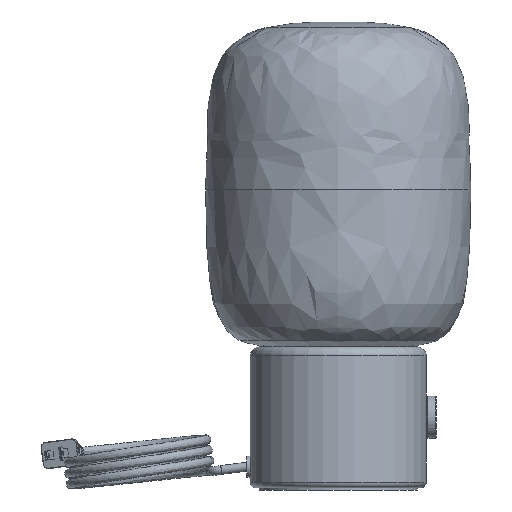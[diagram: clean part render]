
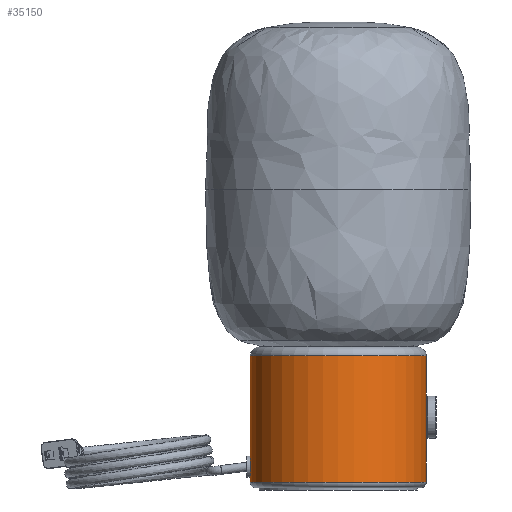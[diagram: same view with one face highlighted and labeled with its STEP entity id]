
A CAD part, left-side view. The second image highlights one B-rep face of the part: STEP entity #35150.
In plain terms, the highlighted cylindrical face has radius 63.5 mm (diameter 127 mm), a full revolution.
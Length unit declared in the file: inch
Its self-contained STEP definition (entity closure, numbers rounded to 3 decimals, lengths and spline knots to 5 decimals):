
#172=FACE_BOUND('',#6121,.T.);
#173=FACE_BOUND('',#6122,.T.);
#497=B_SPLINE_CURVE_WITH_KNOTS('',3,(#51264,#51265,#51266,#51267,#51268,
#51269,#51270,#51271,#51272,#51273,#51274,#51275,#51276,#51277,#51278,#51279,
#51280,#51281,#51282,#51283,#51284,#51285,#51286,#51287,#51288,#51289,#51290,
#51291,#51292,#51293,#51294,#51295,#51296,#51297),.UNSPECIFIED.,.T.,.F.,
(4,2,2,2,2,2,2,2,2,2,2,2,2,2,2,2,4),(0.,0.19144,0.38288,
0.57429,0.7657,0.95719,1.14868,
1.34013,1.53157,1.72302,1.91447,2.10596,
2.29745,2.48886,2.68027,2.87171,3.06315),
 .UNSPECIFIED.);
#498=B_SPLINE_CURVE_WITH_KNOTS('',3,(#51300,#51301,#51302,#51303,#51304,
#51305,#51306,#51307,#51308,#51309,#51310,#51311,#51312,#51313,#51314,#51315,
#51316,#51317),.UNSPECIFIED.,.F.,.F.,(4,2,2,2,2,2,2,2,4),(0.,0.14355,
0.28711,0.43066,0.57422,0.71777,
0.86133,1.00488,1.14844),.UNSPECIFIED.);
#499=B_SPLINE_CURVE_WITH_KNOTS('',3,(#51318,#51319,#51320,#51321,#51322,
#51323,#51324,#51325,#51326,#51327,#51328,#51329,#51330,#51331,#51332,#51333,
#51334,#51335),.UNSPECIFIED.,.F.,.F.,(4,2,2,2,2,2,2,2,4),(1.14844,
1.29199,1.43555,1.5791,1.72266,1.86621,
2.00976,2.15332,2.29687),.UNSPECIFIED.);
#4068=FACE_OUTER_BOUND('',#6120,.T.);
#6120=EDGE_LOOP('',(#24691,#24692,#24693,#24694));
#6121=EDGE_LOOP('',(#24695));
#6122=EDGE_LOOP('',(#24696,#24697));
#8312=LINE('',#51262,#11614);
#11614=VECTOR('',#39458,2.5);
#14878=CIRCLE('',#37475,2.5);
#14881=CIRCLE('',#37479,2.5);
#15374=VERTEX_POINT('',#51254);
#15376=VERTEX_POINT('',#51260);
#15377=VERTEX_POINT('',#51263);
#15378=VERTEX_POINT('',#51298);
#15379=VERTEX_POINT('',#51299);
#19016=EDGE_CURVE('',#15374,#15374,#14878,.T.);
#19019=EDGE_CURVE('',#15376,#15376,#14881,.T.);
#19020=EDGE_CURVE('',#15376,#15374,#8312,.T.);
#19021=EDGE_CURVE('',#15377,#15377,#497,.F.);
#19022=EDGE_CURVE('',#15378,#15379,#498,.T.);
#19023=EDGE_CURVE('',#15379,#15378,#499,.T.);
#24691=ORIENTED_EDGE('',*,*,#19019,.F.);
#24692=ORIENTED_EDGE('',*,*,#19020,.T.);
#24693=ORIENTED_EDGE('',*,*,#19016,.F.);
#24694=ORIENTED_EDGE('',*,*,#19020,.F.);
#24695=ORIENTED_EDGE('',*,*,#19021,.T.);
#24696=ORIENTED_EDGE('',*,*,#19022,.T.);
#24697=ORIENTED_EDGE('',*,*,#19023,.T.);
#34947=CYLINDRICAL_SURFACE('',#37478,2.5);
#35150=ADVANCED_FACE('',(#4068,#172,#173),#34947,.T.);
#37475=AXIS2_PLACEMENT_3D('',#51255,#39448,#39449);
#37478=AXIS2_PLACEMENT_3D('',#51259,#39454,#39455);
#37479=AXIS2_PLACEMENT_3D('',#51261,#39456,#39457);
#39448=DIRECTION('center_axis',(0.,0.,-1.));
#39449=DIRECTION('ref_axis',(1.,0.,0.));
#39454=DIRECTION('center_axis',(0.,0.,1.));
#39455=DIRECTION('ref_axis',(1.,0.,0.));
#39456=DIRECTION('center_axis',(0.,0.,1.));
#39457=DIRECTION('ref_axis',(1.,0.,0.));
#39458=DIRECTION('',(0.,0.,-1.));
#51254=CARTESIAN_POINT('',(-2.5,0.,0.16));
#51255=CARTESIAN_POINT('Origin',(0.,0.,0.16));
#51259=CARTESIAN_POINT('Origin',(0.,0.,0.));
#51260=CARTESIAN_POINT('',(-2.5,0.,3.75));
#51261=CARTESIAN_POINT('Origin',(0.,0.,3.75));
#51262=CARTESIAN_POINT('',(-2.5,0.,0.));
#51263=CARTESIAN_POINT('',(-0.18297,2.4933,0.60024));
#51264=CARTESIAN_POINT('Ctrl Pts',(-0.18297,2.4933,
0.60024));
#51265=CARTESIAN_POINT('Ctrl Pts',(-0.18297,2.4933,
0.62537));
#51266=CARTESIAN_POINT('Ctrl Pts',(-0.17795,2.49368,
0.65216));
#51267=CARTESIAN_POINT('Ctrl Pts',(-0.15753,2.49505,
0.70143));
#51268=CARTESIAN_POINT('Ctrl Pts',(-0.14214,2.49602,0.72392));
#51269=CARTESIAN_POINT('Ctrl Pts',(-0.10663,2.49779,0.75942));
#51270=CARTESIAN_POINT('Ctrl Pts',(-0.08415,2.49871,
0.77481));
#51271=CARTESIAN_POINT('Ctrl Pts',(-0.03488,2.49988,
0.79522));
#51272=CARTESIAN_POINT('Ctrl Pts',(-0.00809,2.50011,
0.80024));
#51273=CARTESIAN_POINT('Ctrl Pts',(0.04216,2.49977,
0.80024));
#51274=CARTESIAN_POINT('Ctrl Pts',(0.06896,2.49917,
0.79522));
#51275=CARTESIAN_POINT('Ctrl Pts',(0.11823,2.49732,0.7748));
#51276=CARTESIAN_POINT('Ctrl Pts',(0.14071,2.4961,0.75941));
#51277=CARTESIAN_POINT('Ctrl Pts',(0.17621,2.49385,0.72391));
#51278=CARTESIAN_POINT('Ctrl Pts',(0.1916,2.49267,0.70143));
#51279=CARTESIAN_POINT('Ctrl Pts',(0.21201,2.49102,0.65216));
#51280=CARTESIAN_POINT('Ctrl Pts',(0.21703,2.49056,0.62537));
#51281=CARTESIAN_POINT('Ctrl Pts',(0.21703,2.49056,0.57512));
#51282=CARTESIAN_POINT('Ctrl Pts',(0.21201,2.49102,0.54833));
#51283=CARTESIAN_POINT('Ctrl Pts',(0.1916,2.49267,0.49906));
#51284=CARTESIAN_POINT('Ctrl Pts',(0.17621,2.49385,0.47658));
#51285=CARTESIAN_POINT('Ctrl Pts',(0.14071,2.4961,0.44108));
#51286=CARTESIAN_POINT('Ctrl Pts',(0.11823,2.49732,0.42568));
#51287=CARTESIAN_POINT('Ctrl Pts',(0.06896,2.49917,
0.40527));
#51288=CARTESIAN_POINT('Ctrl Pts',(0.04216,2.49977,
0.40024));
#51289=CARTESIAN_POINT('Ctrl Pts',(-0.00809,2.50011,
0.40024));
#51290=CARTESIAN_POINT('Ctrl Pts',(-0.03488,2.49988,
0.40526));
#51291=CARTESIAN_POINT('Ctrl Pts',(-0.08415,2.49871,
0.42567));
#51292=CARTESIAN_POINT('Ctrl Pts',(-0.10663,2.49779,0.44106));
#51293=CARTESIAN_POINT('Ctrl Pts',(-0.14214,2.49602,0.47657));
#51294=CARTESIAN_POINT('Ctrl Pts',(-0.15753,2.49505,
0.49905));
#51295=CARTESIAN_POINT('Ctrl Pts',(-0.17795,2.49368,
0.54833));
#51296=CARTESIAN_POINT('Ctrl Pts',(-0.18297,2.4933,
0.57512));
#51297=CARTESIAN_POINT('Ctrl Pts',(-0.18297,2.4933,
0.60024));
#51298=CARTESIAN_POINT('',(0.15,-2.4955,2.));
#51299=CARTESIAN_POINT('',(-0.15,-2.4955,2.));
#51300=CARTESIAN_POINT('Ctrl Pts',(0.15,-2.4955,2.));
#51301=CARTESIAN_POINT('Ctrl Pts',(0.15,-2.4955,1.98116));
#51302=CARTESIAN_POINT('Ctrl Pts',(0.14623,-2.49573,
1.96107));
#51303=CARTESIAN_POINT('Ctrl Pts',(0.13092,-2.49658,
1.92411));
#51304=CARTESIAN_POINT('Ctrl Pts',(0.11938,-2.49718,
1.90725));
#51305=CARTESIAN_POINT('Ctrl Pts',(0.09275,-2.49831,
1.88062));
#51306=CARTESIAN_POINT('Ctrl Pts',(0.07589,-2.49892,
1.86908));
#51307=CARTESIAN_POINT('Ctrl Pts',(0.03893,-2.49977,
1.85377));
#51308=CARTESIAN_POINT('Ctrl Pts',(0.01884,-2.5,
1.85));
#51309=CARTESIAN_POINT('Ctrl Pts',(-0.01884,-2.5,
1.85));
#51310=CARTESIAN_POINT('Ctrl Pts',(-0.03893,-2.49977,
1.85377));
#51311=CARTESIAN_POINT('Ctrl Pts',(-0.07589,-2.49892,
1.86908));
#51312=CARTESIAN_POINT('Ctrl Pts',(-0.09275,-2.49831,
1.88062));
#51313=CARTESIAN_POINT('Ctrl Pts',(-0.11938,-2.49718,
1.90725));
#51314=CARTESIAN_POINT('Ctrl Pts',(-0.13092,-2.49658,
1.92411));
#51315=CARTESIAN_POINT('Ctrl Pts',(-0.14623,-2.49573,
1.96107));
#51316=CARTESIAN_POINT('Ctrl Pts',(-0.15,-2.4955,1.98116));
#51317=CARTESIAN_POINT('Ctrl Pts',(-0.15,-2.4955,2.));
#51318=CARTESIAN_POINT('Ctrl Pts',(-0.15,-2.4955,2.));
#51319=CARTESIAN_POINT('Ctrl Pts',(-0.15,-2.4955,2.01884));
#51320=CARTESIAN_POINT('Ctrl Pts',(-0.14623,-2.49573,
2.03893));
#51321=CARTESIAN_POINT('Ctrl Pts',(-0.13092,-2.49658,
2.07589));
#51322=CARTESIAN_POINT('Ctrl Pts',(-0.11938,-2.49718,
2.09275));
#51323=CARTESIAN_POINT('Ctrl Pts',(-0.09275,-2.49831,
2.11938));
#51324=CARTESIAN_POINT('Ctrl Pts',(-0.07589,-2.49892,
2.13092));
#51325=CARTESIAN_POINT('Ctrl Pts',(-0.03893,-2.49977,
2.14623));
#51326=CARTESIAN_POINT('Ctrl Pts',(-0.01884,-2.5,
2.15));
#51327=CARTESIAN_POINT('Ctrl Pts',(0.01884,-2.5,
2.15));
#51328=CARTESIAN_POINT('Ctrl Pts',(0.03893,-2.49977,
2.14623));
#51329=CARTESIAN_POINT('Ctrl Pts',(0.07589,-2.49892,
2.13092));
#51330=CARTESIAN_POINT('Ctrl Pts',(0.09275,-2.49831,
2.11938));
#51331=CARTESIAN_POINT('Ctrl Pts',(0.11938,-2.49718,
2.09275));
#51332=CARTESIAN_POINT('Ctrl Pts',(0.13092,-2.49658,
2.07589));
#51333=CARTESIAN_POINT('Ctrl Pts',(0.14623,-2.49573,
2.03893));
#51334=CARTESIAN_POINT('Ctrl Pts',(0.15,-2.4955,2.01884));
#51335=CARTESIAN_POINT('Ctrl Pts',(0.15,-2.4955,2.));
